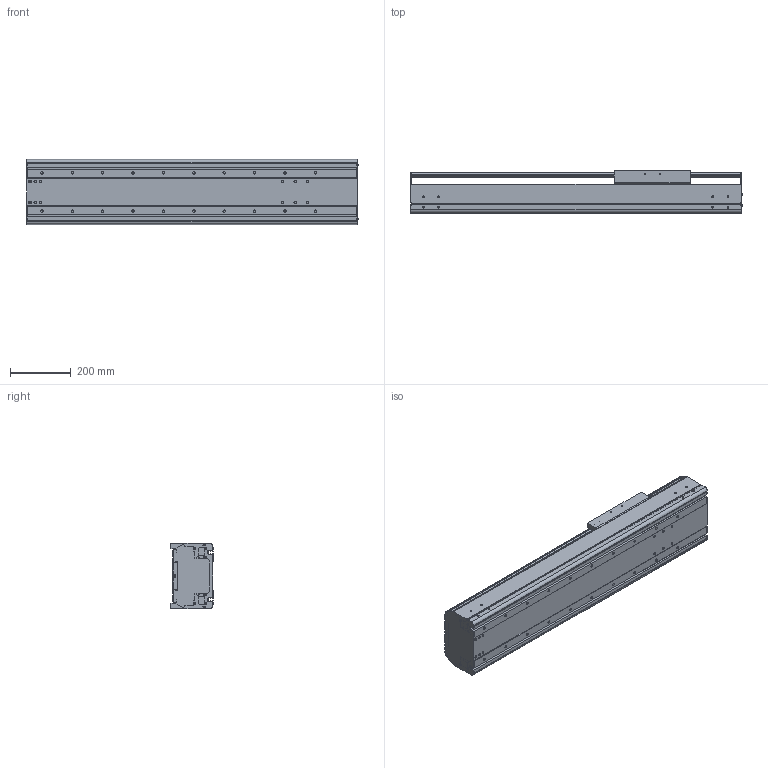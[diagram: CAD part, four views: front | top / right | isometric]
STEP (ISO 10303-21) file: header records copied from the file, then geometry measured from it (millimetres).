
FILE_DESCRIPTION((''),'2;1');
FILE_NAME('BE60J-ST-M_N-60_IGS_PRT','2017-06-18T',(' '),(''),'PRO/ENGINEER BY PARAMETRIC TECHNOLOGY CORPORATION, 2015030','PRO/ENGINEER BY PARAMETRIC TECHNOLOGY CORPORATION, 2015030','');
FILE_SCHEMA(('CONFIG_CONTROL_DESIGN'));
Length unit declared in the file: millimetre
Products named in the file (1): BE60J-ST-M_N-60_IGS_PRT
Bounding box: 1092.4 x 140 x 214 mm (x, y, z)
Volume: 8684090.8 mm3; surface area: 2385868.2 mm2
Topology: 2 solids, 102 shells, 1353 faces, 3768 edges, 2499 vertices
Faces by surface type: cylinder 674, plane 579, cone 52, torus 24, sphere 24
Entity records: 45169 total; most frequent: CARTESIAN_POINT 9924, DIRECTION 7394, ORIENTED_EDGE 7044, EDGE_CURVE 3718, AXIS2_PLACEMENT_3D 2726, VERTEX_POINT 2498, VECTOR 1942, LINE 1942
